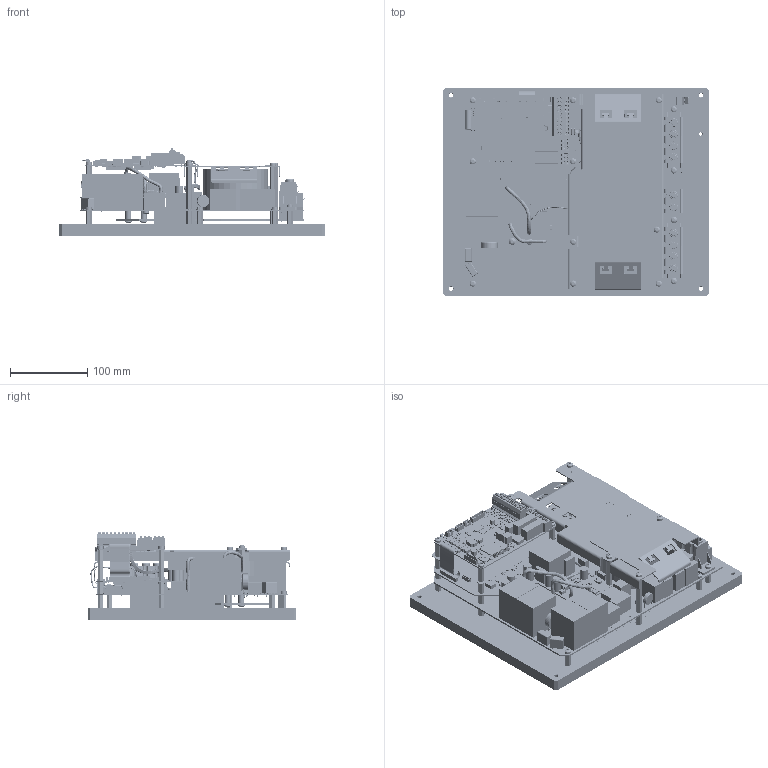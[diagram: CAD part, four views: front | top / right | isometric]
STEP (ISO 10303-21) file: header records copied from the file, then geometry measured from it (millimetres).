
FILE_DESCRIPTION(('CATIA V5 STEP 214'),'2;1');
FILE_NAME('C:\Temp\ddxv7\268864\MKT INV P BG D-1-0000A.stp','2016-04-25T09:49:44+00:00',('Leopold Kostal'),('Kostal GmbH'),'CATIA Version 5 Release 19 SP 9 (IN-10)','CATIA V5 STEP AP214','none');
FILE_SCHEMA(('AUTOMOTIVE_DESIGN { 1 0 10303 214 1 1 1 1 }'));
Products named in the file (1): MKT INV P BG D-1-0000A
Bounding box: 343 x 270 x 112.8 mm (x, y, z)
Volume: 2940070.7 mm3; surface area: 953039.5 mm2
Topology: 2684 solids, 2684 shells, 47786 faces, 122753 edges, 80466 vertices
Faces by surface type: plane 34558, cylinder 11952, cone 414, extrusion 322, sphere 248, torus 196, revolution 54, bspline 42
Entity records: 1385684 total; most frequent: CARTESIAN_POINT 273345, ORIENTED_EDGE 245316, DIRECTION 179848, EDGE_CURVE 122658, VECTOR 94099, LINE 93777, VERTEX_POINT 80466, AXIS2_PLACEMENT_3D 54758
